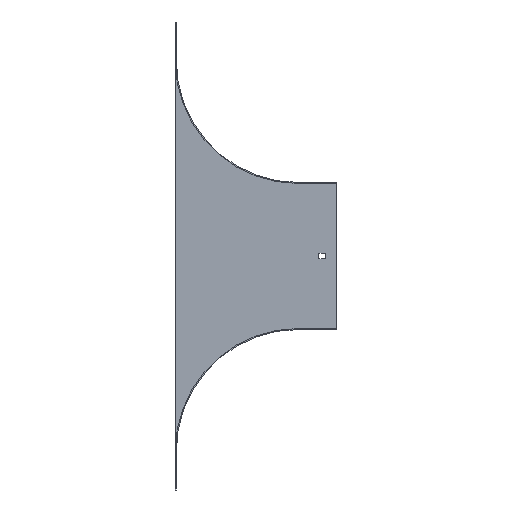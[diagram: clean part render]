
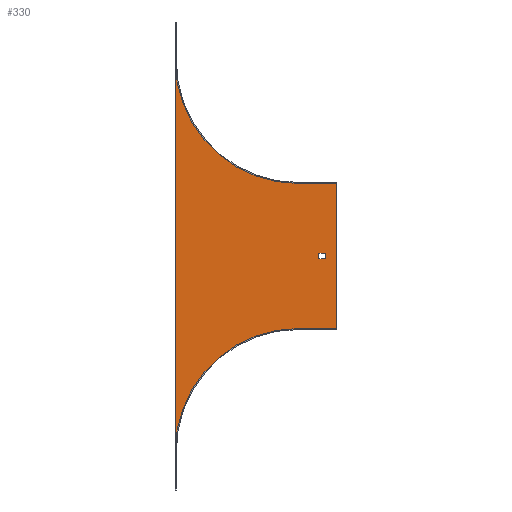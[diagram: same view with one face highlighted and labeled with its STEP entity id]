
A CAD part, front view. The second image highlights one B-rep face of the part: STEP entity #330.
In plain terms, the highlighted planar face has unit normal (0, -1, 0).
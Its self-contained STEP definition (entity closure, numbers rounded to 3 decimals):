
#12 = CARTESIAN_POINT ( 'NONE',  ( 0., -1., -277. ) ) ;
#24 = CARTESIAN_POINT ( 'NONE',  ( 28.5, -1., -205. ) ) ;
#30 = FACE_OUTER_BOUND ( 'NONE', #661, .T. ) ;
#52 = VECTOR ( 'NONE', #582, 1000. ) ;
#56 = DIRECTION ( 'NONE',  ( 0., 0., -1. ) ) ;
#64 = DIRECTION ( 'NONE',  ( 0., 0., 1. ) ) ;
#91 = DIRECTION ( 'NONE',  ( 0., -1., 0. ) ) ;
#95 = FACE_BOUND ( 'NONE', #237, .T. ) ;
#108 = EDGE_CURVE ( 'NONE', #259, #595, #399, .T. ) ;
#112 = VECTOR ( 'NONE', #689, 1000. ) ;
#123 = AXIS2_PLACEMENT_3D ( 'NONE', #527, #727, #627 ) ;
#125 = CARTESIAN_POINT ( 'NONE',  ( 40., -1., -126. ) ) ;
#133 = ORIENTED_EDGE ( 'NONE', *, *, #250, .F. ) ;
#140 = VECTOR ( 'NONE', #407, 1000. ) ;
#150 = CARTESIAN_POINT ( 'NONE',  ( -127., -1., 0. ) ) ;
#159 = AXIS2_PLACEMENT_3D ( 'NONE', #668, #414, #56 ) ;
#162 = EDGE_CURVE ( 'NONE', #443, #180, #633, .T. ) ;
#177 = CARTESIAN_POINT ( 'NONE',  ( 21.5, -1., -199. ) ) ;
#180 = VERTEX_POINT ( 'NONE', #545 ) ;
#191 = CARTESIAN_POINT ( 'NONE',  ( 0., -1., -277. ) ) ;
#207 = DIRECTION ( 'NONE',  ( 1., 0., 0. ) ) ;
#219 = CARTESIAN_POINT ( 'NONE',  ( 0., -1., 0. ) ) ;
#237 = EDGE_LOOP ( 'NONE', ( #365, #377, #726, #133 ) ) ;
#248 = ORIENTED_EDGE ( 'NONE', *, *, #374, .F. ) ;
#250 = EDGE_CURVE ( 'NONE', #180, #591, #264, .T. ) ;
#251 = CARTESIAN_POINT ( 'NONE',  ( -127., -1., -444. ) ) ;
#259 = VERTEX_POINT ( 'NONE', #698 ) ;
#264 = LINE ( 'NONE', #702, #631 ) ;
#318 = ORIENTED_EDGE ( 'NONE', *, *, #455, .F. ) ;
#329 = VERTEX_POINT ( 'NONE', #653 ) ;
#330 = ADVANCED_FACE ( 'NONE', ( #95, #30 ), #709, .T. ) ;
#331 = AXIS2_PLACEMENT_3D ( 'NONE', #219, #91, #551 ) ;
#358 = CARTESIAN_POINT ( 'NONE',  ( 21.5, -1., 0. ) ) ;
#365 = ORIENTED_EDGE ( 'NONE', *, *, #162, .F. ) ;
#374 = EDGE_CURVE ( 'NONE', #706, #490, #533, .T. ) ;
#377 = ORIENTED_EDGE ( 'NONE', *, *, #435, .F. ) ;
#399 = LINE ( 'NONE', #622, #685 ) ;
#407 = DIRECTION ( 'NONE',  ( -1., 0., 0. ) ) ;
#414 = DIRECTION ( 'NONE',  ( 0., -1., 0. ) ) ;
#426 = VECTOR ( 'NONE', #540, 1000. ) ;
#430 = VERTEX_POINT ( 'NONE', #676 ) ;
#431 = LINE ( 'NONE', #12, #474 ) ;
#435 = EDGE_CURVE ( 'NONE', #329, #443, #680, .T. ) ;
#443 = VERTEX_POINT ( 'NONE', #177 ) ;
#445 = EDGE_CURVE ( 'NONE', #537, #259, #451, .T. ) ;
#451 = CIRCLE ( 'NONE', #123, 127. ) ;
#455 = EDGE_CURVE ( 'NONE', #595, #430, #630, .T. ) ;
#457 = ORIENTED_EDGE ( 'NONE', *, *, #108, .F. ) ;
#474 = VECTOR ( 'NONE', #648, 1000. ) ;
#479 = LINE ( 'NONE', #251, #664 ) ;
#490 = VERTEX_POINT ( 'NONE', #531 ) ;
#500 = EDGE_CURVE ( 'NONE', #591, #329, #596, .T. ) ;
#516 = DIRECTION ( 'NONE',  ( 1., 0., 0. ) ) ;
#518 = CARTESIAN_POINT ( 'NONE',  ( 0., -1., -199. ) ) ;
#527 = CARTESIAN_POINT ( 'NONE',  ( 0., -1., 0. ) ) ;
#531 = CARTESIAN_POINT ( 'NONE',  ( -127., -1., -404. ) ) ;
#533 = CIRCLE ( 'NONE', #159, 127. ) ;
#537 = VERTEX_POINT ( 'NONE', #150 ) ;
#538 = CARTESIAN_POINT ( 'NONE',  ( 28.5, -1., 0. ) ) ;
#540 = DIRECTION ( 'NONE',  ( 0., 0., -1. ) ) ;
#544 = EDGE_CURVE ( 'NONE', #430, #706, #431, .T. ) ;
#545 = CARTESIAN_POINT ( 'NONE',  ( 21.5, -1., -205. ) ) ;
#551 = DIRECTION ( 'NONE',  ( 0., 0., -1. ) ) ;
#570 = EDGE_CURVE ( 'NONE', #490, #537, #479, .T. ) ;
#576 = ORIENTED_EDGE ( 'NONE', *, *, #445, .F. ) ;
#582 = DIRECTION ( 'NONE',  ( 0., 0., -1. ) ) ;
#591 = VERTEX_POINT ( 'NONE', #24 ) ;
#595 = VERTEX_POINT ( 'NONE', #640 ) ;
#596 = LINE ( 'NONE', #538, #112 ) ;
#622 = CARTESIAN_POINT ( 'NONE',  ( 0., -1., -127. ) ) ;
#627 = DIRECTION ( 'NONE',  ( 0., 0., -1. ) ) ;
#630 = LINE ( 'NONE', #125, #52 ) ;
#631 = VECTOR ( 'NONE', #207, 1000. ) ;
#633 = LINE ( 'NONE', #358, #426 ) ;
#640 = CARTESIAN_POINT ( 'NONE',  ( 40., -1., -127. ) ) ;
#648 = DIRECTION ( 'NONE',  ( -1., 0., 0. ) ) ;
#650 = ORIENTED_EDGE ( 'NONE', *, *, #544, .F. ) ;
#653 = CARTESIAN_POINT ( 'NONE',  ( 28.5, -1., -199. ) ) ;
#661 = EDGE_LOOP ( 'NONE', ( #248, #650, #318, #457, #576, #679 ) ) ;
#664 = VECTOR ( 'NONE', #64, 1000. ) ;
#668 = CARTESIAN_POINT ( 'NONE',  ( 0., -1., -404. ) ) ;
#676 = CARTESIAN_POINT ( 'NONE',  ( 40., -1., -277. ) ) ;
#679 = ORIENTED_EDGE ( 'NONE', *, *, #570, .F. ) ;
#680 = LINE ( 'NONE', #518, #140 ) ;
#685 = VECTOR ( 'NONE', #516, 1000. ) ;
#689 = DIRECTION ( 'NONE',  ( 0., 0., 1. ) ) ;
#698 = CARTESIAN_POINT ( 'NONE',  ( 0., -1., -127. ) ) ;
#702 = CARTESIAN_POINT ( 'NONE',  ( 0., -1., -205. ) ) ;
#706 = VERTEX_POINT ( 'NONE', #191 ) ;
#709 = PLANE ( 'NONE',  #331 ) ;
#726 = ORIENTED_EDGE ( 'NONE', *, *, #500, .F. ) ;
#727 = DIRECTION ( 'NONE',  ( 0., -1., 0. ) ) ;
